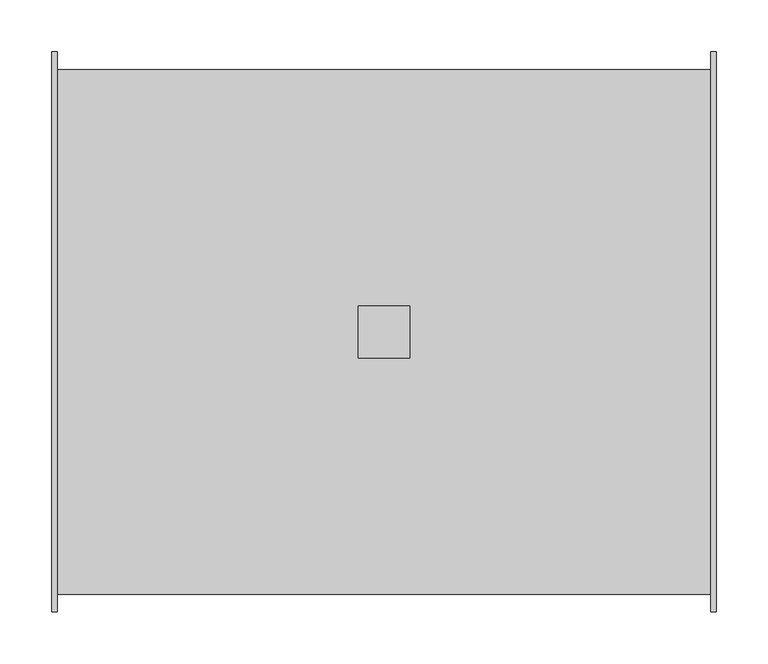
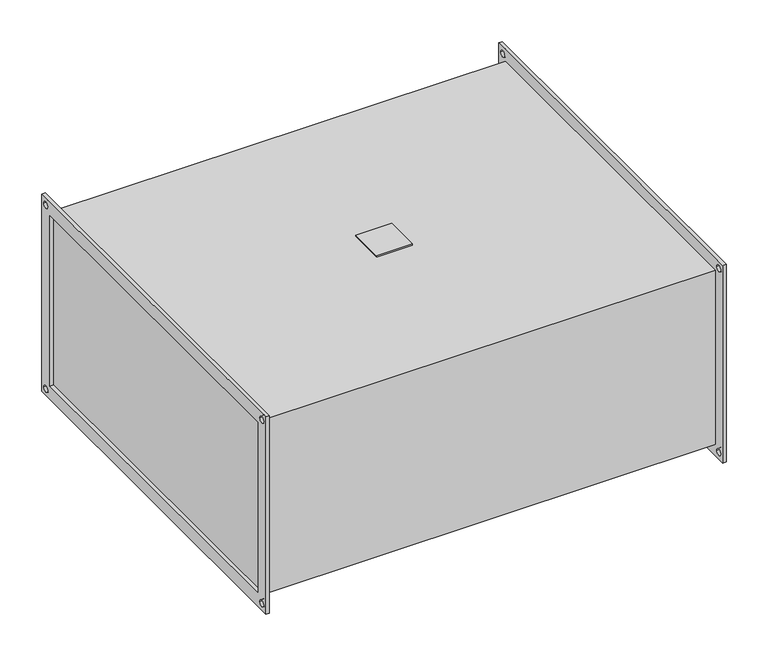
"""IFC4 building model written with IfcOpenShell, lengths in millimetres: damper geometry, KORF_Фильтр_Карманный_FKR : FKR 50-25  EU5."""

from ifc_helpers import new_model, si_unit, point, frame, frame_2d, origin, place, context, project, spatial, polyline, circle_curve, trimmed, segment, composite_curve, outline, extrude, source, transform, mapped, element, save


def damper_05f9109e(model_context):
    return source(origin(), model_context, "Body", "SweptSolid", [
        extrude(outline(polyline([(345.0, 25.0), (345.0, -25.0), (295.0, -25.0), (295.0, 25.0), (345.0, 25.0)])), frame((0.0, 0.0, 128.0), z_axis=(0.0, 0.0, 1.0), x_axis=(1.0, 0.0, 0.0)), (0.0, 0.0, 1.0), 2.0),
        extrude(outline(polyline([(-270.0, 145.0), (270.0, 145.0), (270.0, -145.0), (-270.0, -145.0), (-270.0, 145.0)]), holes=[polyline([(-250.0, 125.0), (-250.0, -125.0), (250.0, -125.0), (250.0, 125.0), (-250.0, 125.0)]), composite_curve([segment(trimmed(circle_curve(frame_2d((260.0, 135.0)), 4.5), [point((255.5, 135.0))], [point((264.5, 135.0))], True, "CARTESIAN"), True, "CONTINUOUS"), segment(trimmed(circle_curve(frame_2d((260.0, 135.0)), 4.5), [point((264.5, 135.0))], [point((255.5, 135.0))], True, "CARTESIAN"), True, "CONTINUOUS")], self_intersect=False), composite_curve([segment(trimmed(circle_curve(frame_2d((-260.0, 135.0)), 4.5), [point((-264.5, 135.0))], [point((-255.5, 135.0))], True, "CARTESIAN"), True, "CONTINUOUS"), segment(trimmed(circle_curve(frame_2d((-260.0, 135.0)), 4.5), [point((-255.5, 135.0))], [point((-264.5, 135.0))], True, "CARTESIAN"), True, "CONTINUOUS")], self_intersect=False), composite_curve([segment(trimmed(circle_curve(frame_2d((-260.0, -135.0)), 4.5), [point((-264.5, -135.0))], [point((-255.5, -135.0))], True, "CARTESIAN"), True, "CONTINUOUS"), segment(trimmed(circle_curve(frame_2d((-260.0, -135.0)), 4.5), [point((-255.5, -135.0))], [point((-264.5, -135.0))], True, "CARTESIAN"), True, "CONTINUOUS")], self_intersect=False), composite_curve([segment(trimmed(circle_curve(frame_2d((260.0, -135.0)), 4.5), [point((255.5, -135.0))], [point((264.5, -135.0))], True, "CARTESIAN"), True, "CONTINUOUS"), segment(trimmed(circle_curve(frame_2d((260.0, -135.0)), 4.5), [point((264.5, -135.0))], [point((255.5, -135.0))], True, "CARTESIAN"), True, "CONTINUOUS")], self_intersect=False)]), frame((635.0, 0.0, 0.0), z_axis=(1.0, 0.0, 0.0), x_axis=(0.0, 1.0, 0.0)), (0.0, 0.0, 1.0), 5.0),
        extrude(outline(polyline([(-270.0, 145.0), (270.0, 145.0), (270.0, -145.0), (-270.0, -145.0), (-270.0, 145.0)]), holes=[polyline([(-250.0, 125.0), (-250.0, -125.0), (250.0, -125.0), (250.0, 125.0), (-250.0, 125.0)]), composite_curve([segment(trimmed(circle_curve(frame_2d((260.0, 135.0)), 4.5), [point((255.5, 135.0))], [point((264.5, 135.0))], True, "CARTESIAN"), True, "CONTINUOUS"), segment(trimmed(circle_curve(frame_2d((260.0, 135.0)), 4.5), [point((264.5, 135.0))], [point((255.5, 135.0))], True, "CARTESIAN"), True, "CONTINUOUS")], self_intersect=False), composite_curve([segment(trimmed(circle_curve(frame_2d((-260.0, 135.0)), 4.5), [point((-264.5, 135.0))], [point((-255.5, 135.0))], True, "CARTESIAN"), True, "CONTINUOUS"), segment(trimmed(circle_curve(frame_2d((-260.0, 135.0)), 4.5), [point((-255.5, 135.0))], [point((-264.5, 135.0))], True, "CARTESIAN"), True, "CONTINUOUS")], self_intersect=False), composite_curve([segment(trimmed(circle_curve(frame_2d((-260.0, -135.0)), 4.5), [point((-264.5, -135.0))], [point((-255.5, -135.0))], True, "CARTESIAN"), True, "CONTINUOUS"), segment(trimmed(circle_curve(frame_2d((-260.0, -135.0)), 4.5), [point((-255.5, -135.0))], [point((-264.5, -135.0))], True, "CARTESIAN"), True, "CONTINUOUS")], self_intersect=False), composite_curve([segment(trimmed(circle_curve(frame_2d((260.0, -135.0)), 4.5), [point((255.5, -135.0))], [point((264.5, -135.0))], True, "CARTESIAN"), True, "CONTINUOUS"), segment(trimmed(circle_curve(frame_2d((260.0, -135.0)), 4.5), [point((264.5, -135.0))], [point((255.5, -135.0))], True, "CARTESIAN"), True, "CONTINUOUS")], self_intersect=False)]), frame((0.0, 0.0, 0.0), z_axis=(1.0, 0.0, 0.0), x_axis=(0.0, 1.0, 0.0)), (0.0, 0.0, 1.0), 5.0),
        extrude(outline(polyline([(635.0, 253.0), (635.0, -253.0), (5.0, -253.0), (5.0, 253.0), (635.0, 253.0)])), frame((0.0, 0.0, -128.0), z_axis=(0.0, 0.0, 1.0), x_axis=(1.0, 0.0, 0.0)), (0.0, 0.0, 1.0), 256.0),
    ])


if __name__ == "__main__":
    model = new_model("IFC4")
    model_context = context("Model", 3, world=origin())
    ifc_project = project(units=[si_unit("LENGTHUNIT", "METRE", prefix="MILLI")], contexts=[model_context])
    site = spatial("IfcSite", under=ifc_project)
    building = spatial("IfcBuilding", under=site)
    placement = place(None, origin())
    damper_shape = damper_05f9109e(model_context)
    element("IfcDamper", 1, ObjectType="KORF_Фильтр_Карманный_FKR : FKR 50-25  EU5", at=placement, inside=building, context=model_context, shape_type="MappedRepresentation", body=[
        mapped(damper_shape, transform((0.0, 0.0, 0.0), x_axis=(1.0, 0.0, 0.0), y_axis=(0.0, 1.0, 0.0), z_axis=(0.0, 0.0, 1.0))),
    ])
    save(model, "model.ifc")
